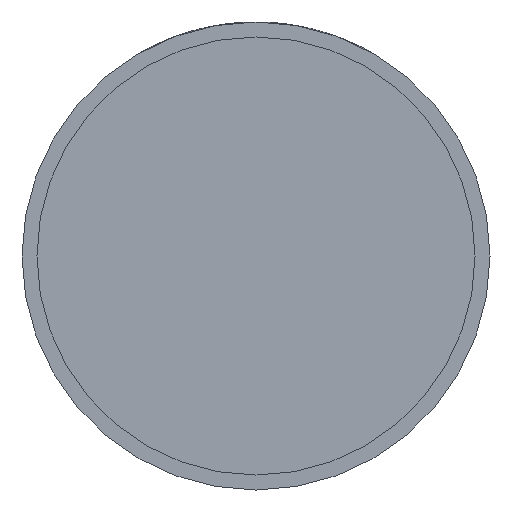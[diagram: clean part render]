
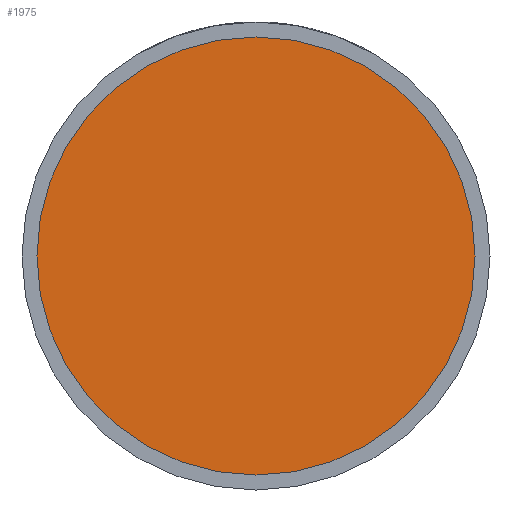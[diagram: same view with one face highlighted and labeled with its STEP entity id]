
A CAD part, front view. The second image highlights one B-rep face of the part: STEP entity #1975.
In plain terms, the highlighted planar face has unit normal (0, -1, 0).
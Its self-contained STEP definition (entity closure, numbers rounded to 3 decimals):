
#54 = EDGE_CURVE ( 'NONE', #729, #3036, #3347, .T. ) ;
#203 = DIRECTION ( 'NONE',  ( 1., 0., 0. ) ) ;
#209 = EDGE_CURVE ( 'NONE', #3036, #729, #2861, .T. ) ;
#380 = AXIS2_PLACEMENT_3D ( 'NONE', #3399, #2052, #3645 ) ;
#422 = ORIENTED_EDGE ( 'NONE', *, *, #209, .T. ) ;
#432 = DIRECTION ( 'NONE',  ( 0., -1., 0. ) ) ;
#590 = AXIS2_PLACEMENT_3D ( 'NONE', #3870, #1796, #203 ) ;
#729 = VERTEX_POINT ( 'NONE', #2771 ) ;
#878 = EDGE_LOOP ( 'NONE', ( #1183, #422 ) ) ;
#1183 = ORIENTED_EDGE ( 'NONE', *, *, #54, .T. ) ;
#1423 = CARTESIAN_POINT ( 'NONE',  ( 33.7, -20., 0. ) ) ;
#1796 = DIRECTION ( 'NONE',  ( 0., -1., 0. ) ) ;
#1975 = ADVANCED_FACE ( 'NONE', ( #2076 ), #3403, .T. ) ;
#2052 = DIRECTION ( 'NONE',  ( 0., -1., 0. ) ) ;
#2076 = FACE_OUTER_BOUND ( 'NONE', #878, .T. ) ;
#2771 = CARTESIAN_POINT ( 'NONE',  ( 33.7, -20., 0. ) ) ;
#2861 = CIRCLE ( 'NONE', #590, 33.7 ) ;
#3036 = VERTEX_POINT ( 'NONE', #4145 ) ;
#3347 = CIRCLE ( 'NONE', #380, 33.7 ) ;
#3390 = DIRECTION ( 'NONE',  ( 1., 0., 0. ) ) ;
#3399 = CARTESIAN_POINT ( 'NONE',  ( 0., -20., 0. ) ) ;
#3403 = PLANE ( 'NONE',  #4038 ) ;
#3645 = DIRECTION ( 'NONE',  ( 1., 0., 0. ) ) ;
#3870 = CARTESIAN_POINT ( 'NONE',  ( 0., -20., 0. ) ) ;
#4038 = AXIS2_PLACEMENT_3D ( 'NONE', #1423, #432, #3390 ) ;
#4145 = CARTESIAN_POINT ( 'NONE',  ( -33.7, -20., 0. ) ) ;
